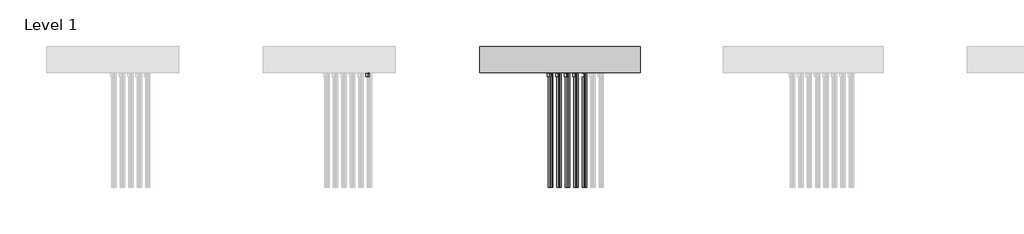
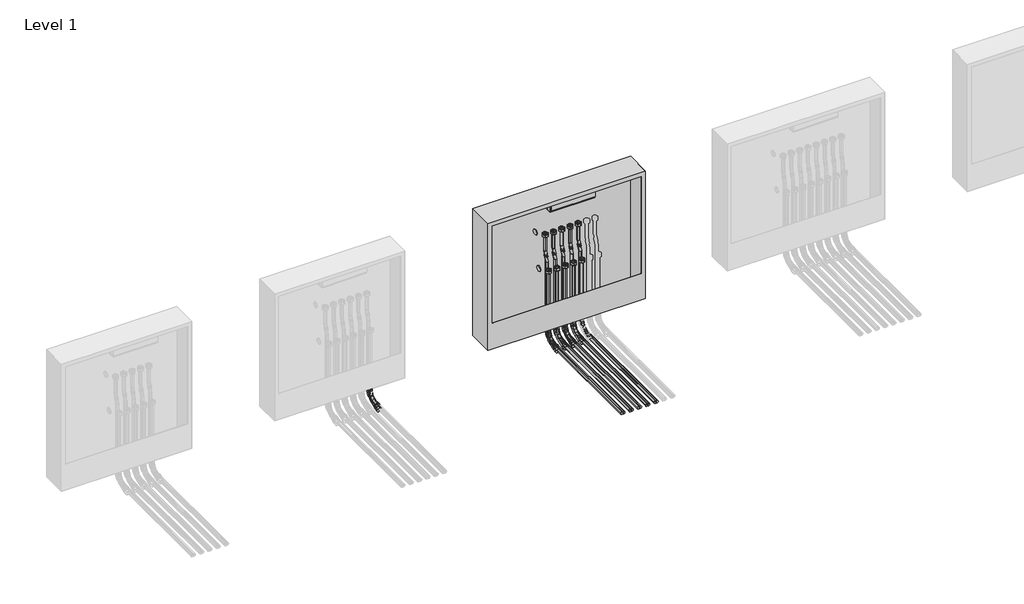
# One storey, part 5 of 15: 41 pipe fittings, 32 pipe segments, 1 proxy, 1 valve.
"""IFC4 building model written with IfcOpenShell, lengths in millimetres."""

from ifc_helpers import new_model, si_unit, point, frame, frame_2d, origin, place, context, project, spatial, circle_curve, trimmed, segment, composite_curve, outline, extrude, transform, mapped, element, save
from components import mechanical_equipment_387b3563, pipe_fitting_b05a7e06, pipe_fitting_27357a6d, pipe_fitting_3e503640, pipe_fitting_daada113, valve_ecdb27b7

model = new_model("IFC4")

# Units and contexts
model_context = context("Model", 3, world=origin())
ifc_project = project(units=[si_unit("LENGTHUNIT", "METRE", prefix="MILLI")], contexts=[model_context])

# Site, building, storey
site = spatial("IfcSite", under=ifc_project)
building = spatial("IfcBuilding", under=site)
storey = spatial("IfcBuildingStorey", under=building, Name="Level 1", Elevation=0.0)

# Proxy
placement = place(None, origin())
mechanical_equipment_shape = mechanical_equipment_387b3563(model_context)
element("IfcBuildingElementProxy", 1, Name="USYSTEMS_Контроллер UH-6 230В1 : Контроллер UH-6 230В 2", ObjectType="USYSTEMS_Контроллер UH-6 230В1 : Контроллер UH-6 230В 2", at=placement, inside=storey, context=model_context, shape_type="MappedRepresentation", body=[
    mapped(mechanical_equipment_shape, transform((8820.5319067, 3891.6676106, 729.375), x_axis=(1.0, 0.0, 0.0), y_axis=(0.0, 1.0, 0.0), z_axis=(0.0, 0.0, 1.0))),
])

# Pipe fittings
pipe_fitting_shape = pipe_fitting_b05a7e06(model_context)
element("IfcPipeFitting", 2, ObjectType="USYSTEMS_УгловойФиксатор_Multi : Угловой фиксатор", at=placement, inside=storey, context=model_context, shape_type="MappedRepresentation", body=[
    mapped(pipe_fitting_shape, transform((7592.2335352, 3819.7722258, -114.3211479), x_axis=(0.0, 0.0, -1.0), y_axis=(0.0, -1.0, 0.0), z_axis=(-1.0, 0.0, 0.0))),
])
element("IfcPipeFitting", 3, ObjectType="USYSTEMS_УгловойФиксатор_Multi : Угловой фиксатор", at=placement, inside=storey, context=model_context, shape_type="MappedRepresentation", body=[
    mapped(pipe_fitting_shape, transform((7602.3192916, 3855.7725479, -114.3211479), x_axis=(0.0, 0.0, -1.0), y_axis=(0.0, -1.0, 0.0), z_axis=(-1.0, 0.0, 0.0))),
])
element("IfcPipeFitting", 4, ObjectType="USYSTEMS_УгловойФиксатор_Multi : Угловой фиксатор", at=placement, inside=storey, context=model_context, shape_type="MappedRepresentation", body=[
    mapped(pipe_fitting_shape, transform((8667.1374436, 3819.7301106, -114.3211479), x_axis=(0.0, 0.0, -1.0), y_axis=(0.0, -1.0, 0.0), z_axis=(-1.0, 0.0, 0.0))),
])
element("IfcPipeFitting", 5, ObjectType="USYSTEMS_УгловойФиксатор_Multi : Угловой фиксатор", at=placement, inside=storey, context=model_context, shape_type="MappedRepresentation", body=[
    mapped(pipe_fitting_shape, transform((8717.1374436, 3819.7301106, -114.3211479), x_axis=(0.0, 0.0, -1.0), y_axis=(0.0, -1.0, 0.0), z_axis=(-1.0, 0.0, 0.0))),
])
element("IfcPipeFitting", 6, ObjectType="USYSTEMS_УгловойФиксатор_Multi : Угловой фиксатор", at=placement, inside=storey, context=model_context, shape_type="MappedRepresentation", body=[
    mapped(pipe_fitting_shape, transform((8677.2232, 3855.7301106, -114.3211479), x_axis=(0.0, 0.0, -1.0), y_axis=(0.0, -1.0, 0.0), z_axis=(-1.0, 0.0, 0.0))),
])
element("IfcPipeFitting", 7, ObjectType="USYSTEMS_УгловойФиксатор_Multi : Угловой фиксатор", at=placement, inside=storey, context=model_context, shape_type="MappedRepresentation", body=[
    mapped(pipe_fitting_shape, transform((8727.2232, 3855.7301106, -114.3211479), x_axis=(0.0, 0.0, -1.0), y_axis=(0.0, -1.0, 0.0), z_axis=(-1.0, 0.0, 0.0))),
])
element("IfcPipeFitting", 8, ObjectType="USYSTEMS_УгловойФиксатор_Multi : Угловой фиксатор", at=placement, inside=storey, context=model_context, shape_type="MappedRepresentation", body=[
    mapped(pipe_fitting_shape, transform((8767.1374436, 3819.7301106, -114.3211479), x_axis=(0.0, 0.0, -1.0), y_axis=(0.0, -1.0, 0.0), z_axis=(-1.0, 0.0, 0.0))),
])
element("IfcPipeFitting", 9, ObjectType="USYSTEMS_УгловойФиксатор_Multi : Угловой фиксатор", at=placement, inside=storey, context=model_context, shape_type="MappedRepresentation", body=[
    mapped(pipe_fitting_shape, transform((8777.2232, 3855.7301106, -114.3211479), x_axis=(0.0, 0.0, -1.0), y_axis=(0.0, -1.0, 0.0), z_axis=(-1.0, 0.0, 0.0))),
])
element("IfcPipeFitting", 10, ObjectType="USYSTEMS_УгловойФиксатор_Multi : Угловой фиксатор", at=placement, inside=storey, context=model_context, shape_type="MappedRepresentation", body=[
    mapped(pipe_fitting_shape, transform((8817.1374436, 3819.7301106, -114.3211479), x_axis=(0.0, 0.0, -1.0), y_axis=(0.0, -1.0, 0.0), z_axis=(-1.0, 0.0, 0.0))),
])
element("IfcPipeFitting", 11, ObjectType="USYSTEMS_УгловойФиксатор_Multi : Угловой фиксатор", at=placement, inside=storey, context=model_context, shape_type="MappedRepresentation", body=[
    mapped(pipe_fitting_shape, transform((8827.2232, 3855.7304327, -114.3211479), x_axis=(0.0, 0.0, -1.0), y_axis=(0.0, -1.0, 0.0), z_axis=(-1.0, 0.0, 0.0))),
])
pipe_fitting_2_shape = pipe_fitting_27357a6d(model_context)
element("IfcPipeFitting", 12, ObjectType="USYSTEMS_Штуцер с внутренней резьбой_FlexX_PEX : 16x2,0 x 3/4\" ВР Евроконус", at=placement, inside=storey, context=model_context, shape_type="MappedRepresentation", body=[
    mapped(pipe_fitting_2_shape, transform((8717.1374436, 3855.7305707, 538.3084133), x_axis=(0.0, 0.0, 1.0), y_axis=(0.0, 1.0, 0.0), z_axis=(-1.0, 0.0, 0.0))),
])
element("IfcPipeFitting", 13, ObjectType="USYSTEMS_Штуцер с внутренней резьбой_FlexX_PEX : 16x2,0 x 3/4\" ВР Евроконус", at=placement, inside=storey, context=model_context, shape_type="MappedRepresentation", body=[
    mapped(pipe_fitting_2_shape, transform((8717.1374436, 3819.7305707, 328.3084133), x_axis=(0.0, 0.0, 1.0), y_axis=(0.0, 1.0, 0.0), z_axis=(-1.0, 0.0, 0.0))),
])
element("IfcPipeFitting", 14, ObjectType="USYSTEMS_Штуцер с внутренней резьбой_FlexX_PEX : 16x2,0 x 3/4\" ВР Евроконус", at=placement, inside=storey, context=model_context, shape_type="MappedRepresentation", body=[
    mapped(pipe_fitting_2_shape, transform((8667.1374436, 3819.7305707, 328.3084133), x_axis=(0.0, 0.0, 1.0), y_axis=(0.0, 1.0, 0.0), z_axis=(-1.0, 0.0, 0.0))),
])
element("IfcPipeFitting", 15, ObjectType="USYSTEMS_Штуцер с внутренней резьбой_FlexX_PEX : 16x2,0 x 3/4\" ВР Евроконус", at=placement, inside=storey, context=model_context, shape_type="MappedRepresentation", body=[
    mapped(pipe_fitting_2_shape, transform((8667.1374436, 3855.7305707, 538.3084133), x_axis=(0.0, 0.0, 1.0), y_axis=(0.0, 1.0, 0.0), z_axis=(-1.0, 0.0, 0.0))),
])
element("IfcPipeFitting", 16, ObjectType="USYSTEMS_Штуцер с внутренней резьбой_FlexX_PEX : 16x2,0 x 3/4\" ВР Евроконус", at=placement, inside=storey, context=model_context, shape_type="MappedRepresentation", body=[
    mapped(pipe_fitting_2_shape, transform((8767.1374436, 3819.7305707, 328.3084133), x_axis=(0.0, 0.0, 1.0), y_axis=(0.0, 1.0, 0.0), z_axis=(-1.0, 0.0, 0.0))),
])
element("IfcPipeFitting", 17, ObjectType="USYSTEMS_Штуцер с внутренней резьбой_FlexX_PEX : 16x2,0 x 3/4\" ВР Евроконус", at=placement, inside=storey, context=model_context, shape_type="MappedRepresentation", body=[
    mapped(pipe_fitting_2_shape, transform((8767.1374436, 3855.7305707, 538.3084133), x_axis=(0.0, 0.0, 1.0), y_axis=(0.0, 1.0, 0.0), z_axis=(-1.0, 0.0, 0.0))),
])
element("IfcPipeFitting", 18, ObjectType="USYSTEMS_Штуцер с внутренней резьбой_FlexX_PEX : 16x2,0 x 3/4\" ВР Евроконус", at=placement, inside=storey, context=model_context, shape_type="MappedRepresentation", body=[
    mapped(pipe_fitting_2_shape, transform((8817.1374436, 3819.7305707, 328.3084133), x_axis=(0.0, 0.0, 1.0), y_axis=(0.0, 1.0, 0.0), z_axis=(-1.0, 0.0, 0.0))),
])
element("IfcPipeFitting", 19, ObjectType="USYSTEMS_Штуцер с внутренней резьбой_FlexX_PEX : 16x2,0 x 3/4\" ВР Евроконус", at=placement, inside=storey, context=model_context, shape_type="MappedRepresentation", body=[
    mapped(pipe_fitting_2_shape, transform((8817.1374436, 3855.7305707, 538.3084133), x_axis=(0.0, 0.0, 1.0), y_axis=(0.0, 1.0, 0.0), z_axis=(-1.0, 0.0, 0.0))),
])
element("IfcPipeFitting", 20, ObjectType="USYSTEMS_Штуцер с внутренней резьбой_FlexX_PEX : 16x2,0 x 3/4\" ВР Евроконус", at=placement, inside=storey, context=model_context, shape_type="MappedRepresentation", body=[
    mapped(pipe_fitting_2_shape, transform((8867.1374436, 3819.7305707, 328.3084133), x_axis=(0.0, 0.0, 1.0), y_axis=(0.0, 1.0, 0.0), z_axis=(-1.0, 0.0, 0.0))),
])
element("IfcPipeFitting", 21, ObjectType="USYSTEMS_Штуцер с внутренней резьбой_FlexX_PEX : 16x2,0 x 3/4\" ВР Евроконус", at=placement, inside=storey, context=model_context, shape_type="MappedRepresentation", body=[
    mapped(pipe_fitting_2_shape, transform((8867.1374436, 3855.7305707, 538.3084133), x_axis=(0.0, 0.0, 1.0), y_axis=(0.0, 1.0, 0.0), z_axis=(-1.0, 0.0, 0.0))),
])
pipe_fitting_3_shape = pipe_fitting_3e503640(model_context)
element("IfcPipeFitting", 22, ObjectType="USYSTEMS_Гнутая труба_Radi Pipe : PN 6 в бухтах_С фиксатором", at=placement, inside=storey, context=model_context, shape_type="MappedRepresentation", body=[
    mapped(pipe_fitting_3_shape, transform((7602.3192916, 3855.7725479, -114.3211479), x_axis=(0.0, 0.0, -1.0), y_axis=(0.0, -1.0, 0.0), z_axis=(-1.0, 0.0, 0.0))),
])
pipe_fitting_4_shape = pipe_fitting_daada113(model_context)
element("IfcPipeFitting", 23, ObjectType="USYSTEMS_Гнутая труба_Radi Pipe : PN 6 в бухтах", at=placement, inside=storey, context=model_context, shape_type="MappedRepresentation", body=[
    mapped(pipe_fitting_4_shape, transform((8667.1374436, 3855.7298107, 414.5388211), x_axis=(0.0, 0.0, -1.0), y_axis=(1.0, 0.0, 0.0), z_axis=(0.0, -1.0, 0.0))),
])
element("IfcPipeFitting", 24, ObjectType="USYSTEMS_Гнутая труба_Radi Pipe : PN 6 в бухтах", at=placement, inside=storey, context=model_context, shape_type="MappedRepresentation", body=[
    mapped(pipe_fitting_4_shape, transform((8677.2232, 3855.7301106, 388.2645272), x_axis=(0.3583679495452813, 0.0, -0.9335804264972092), y_axis=(-0.9335804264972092, 0.0, -0.3583679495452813), z_axis=(0.0, 1.0, 0.0))),
])
element("IfcPipeFitting", 25, ObjectType="USYSTEMS_Гнутая труба_Radi Pipe : PN 6 в бухтах", at=placement, inside=storey, context=model_context, shape_type="MappedRepresentation", body=[
    mapped(pipe_fitting_4_shape, transform((8717.1374436, 3855.7298109, 414.5122189), x_axis=(0.0, 0.0, -1.0), y_axis=(1.0, 0.0, 0.0), z_axis=(0.0, -1.0, 0.0))),
])
element("IfcPipeFitting", 26, ObjectType="USYSTEMS_Гнутая труба_Radi Pipe : PN 6 в бухтах", at=placement, inside=storey, context=model_context, shape_type="MappedRepresentation", body=[
    mapped(pipe_fitting_4_shape, transform((8727.2232, 3855.7301106, 388.237925), x_axis=(0.3583679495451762, 0.0, -0.9335804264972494), y_axis=(-0.9335804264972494, 0.0, -0.3583679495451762), z_axis=(0.0, 1.0, 0.0))),
])
element("IfcPipeFitting", 27, ObjectType="USYSTEMS_Гнутая труба_Radi Pipe : PN 6 в бухтах", at=placement, inside=storey, context=model_context, shape_type="MappedRepresentation", body=[
    mapped(pipe_fitting_4_shape, transform((8767.1374436, 3855.7298107, 414.5388211), x_axis=(0.0, 0.0, -1.0), y_axis=(1.0, 0.0, 0.0), z_axis=(0.0, -1.0, 0.0))),
])
element("IfcPipeFitting", 28, ObjectType="USYSTEMS_Гнутая труба_Radi Pipe : PN 6 в бухтах", at=placement, inside=storey, context=model_context, shape_type="MappedRepresentation", body=[
    mapped(pipe_fitting_4_shape, transform((8777.2232, 3855.7301106, 388.2645272), x_axis=(0.3583679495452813, 0.0, -0.9335804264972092), y_axis=(-0.9335804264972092, 0.0, -0.3583679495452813), z_axis=(0.0, 1.0, 0.0))),
])
element("IfcPipeFitting", 29, ObjectType="USYSTEMS_Гнутая труба_Radi Pipe : PN 6 в бухтах", at=placement, inside=storey, context=model_context, shape_type="MappedRepresentation", body=[
    mapped(pipe_fitting_4_shape, transform((8817.1374436, 3855.7303427, 414.5388211), x_axis=(0.0, 0.0, -1.0), y_axis=(1.0, 0.0, 0.0), z_axis=(0.0, -1.0, 0.0))),
])
element("IfcPipeFitting", 30, ObjectType="USYSTEMS_Гнутая труба_Radi Pipe : PN 6 в бухтах", at=placement, inside=storey, context=model_context, shape_type="MappedRepresentation", body=[
    mapped(pipe_fitting_4_shape, transform((8827.2232, 3855.7304327, 388.2645272), x_axis=(0.3583679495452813, 0.0, -0.9335804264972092), y_axis=(-0.9335804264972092, 0.0, -0.3583679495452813), z_axis=(0.0, 1.0, 0.0))),
])
element("IfcPipeFitting", 31, ObjectType="USYSTEMS_Гнутая труба_Radi Pipe : PN 6 в бухтах", at=placement, inside=storey, context=model_context, shape_type="MappedRepresentation", body=[
    mapped(pipe_fitting_4_shape, transform((8867.1374436, 3855.7298107, 414.5388211), x_axis=(0.0, 0.0, -1.0), y_axis=(1.0, 0.0, 0.0), z_axis=(0.0, -1.0, 0.0))),
])
element("IfcPipeFitting", 32, ObjectType="USYSTEMS_Гнутая труба_Radi Pipe : PN 6 в бухтах", at=placement, inside=storey, context=model_context, shape_type="MappedRepresentation", body=[
    mapped(pipe_fitting_4_shape, transform((8877.2232, 3855.7301106, 388.2645272), x_axis=(0.3583679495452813, 0.0, -0.9335804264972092), y_axis=(-0.9335804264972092, 0.0, -0.3583679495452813), z_axis=(0.0, 1.0, 0.0))),
])
element("IfcPipeFitting", 33, ObjectType="USYSTEMS_Гнутая труба_Radi Pipe : PN 6 в бухтах_С фиксатором", at=placement, inside=storey, context=model_context, shape_type="MappedRepresentation", body=[
    mapped(pipe_fitting_3_shape, transform((8667.1374436, 3819.7301106, -114.3211479), x_axis=(0.0, 0.0, -1.0), y_axis=(0.0, -1.0, 0.0), z_axis=(-1.0, 0.0, 0.0))),
])
element("IfcPipeFitting", 34, ObjectType="USYSTEMS_Гнутая труба_Radi Pipe : PN 6 в бухтах_С фиксатором", at=placement, inside=storey, context=model_context, shape_type="MappedRepresentation", body=[
    mapped(pipe_fitting_3_shape, transform((8717.1374436, 3819.7301106, -114.3211479), x_axis=(0.0, 0.0, -1.0), y_axis=(0.0, -1.0, 0.0), z_axis=(-1.0, 0.0, 0.0))),
])
element("IfcPipeFitting", 35, ObjectType="USYSTEMS_Гнутая труба_Radi Pipe : PN 6 в бухтах_С фиксатором", at=placement, inside=storey, context=model_context, shape_type="MappedRepresentation", body=[
    mapped(pipe_fitting_3_shape, transform((8677.2232, 3855.7301106, -114.3211479), x_axis=(0.0, 0.0, -1.0), y_axis=(0.0, -1.0, 0.0), z_axis=(-1.0, 0.0, 0.0))),
])
element("IfcPipeFitting", 36, ObjectType="USYSTEMS_Гнутая труба_Radi Pipe : PN 6 в бухтах_С фиксатором", at=placement, inside=storey, context=model_context, shape_type="MappedRepresentation", body=[
    mapped(pipe_fitting_3_shape, transform((8727.2232, 3855.7301106, -114.3211479), x_axis=(0.0, 0.0, -1.0), y_axis=(0.0, -1.0, 0.0), z_axis=(-1.0, 0.0, 0.0))),
])
element("IfcPipeFitting", 37, ObjectType="USYSTEMS_Гнутая труба_Radi Pipe : PN 6 в бухтах_С фиксатором", at=placement, inside=storey, context=model_context, shape_type="MappedRepresentation", body=[
    mapped(pipe_fitting_3_shape, transform((8767.1374436, 3819.7301106, -114.3211479), x_axis=(0.0, 0.0, -1.0), y_axis=(0.0, -1.0, 0.0), z_axis=(-1.0, 0.0, 0.0))),
])
element("IfcPipeFitting", 38, ObjectType="USYSTEMS_Гнутая труба_Radi Pipe : PN 6 в бухтах_С фиксатором", at=placement, inside=storey, context=model_context, shape_type="MappedRepresentation", body=[
    mapped(pipe_fitting_3_shape, transform((8777.2232, 3855.7301106, -114.3211479), x_axis=(0.0, 0.0, -1.0), y_axis=(0.0, -1.0, 0.0), z_axis=(-1.0, 0.0, 0.0))),
])
element("IfcPipeFitting", 39, ObjectType="USYSTEMS_Гнутая труба_Radi Pipe : PN 6 в бухтах_С фиксатором", at=placement, inside=storey, context=model_context, shape_type="MappedRepresentation", body=[
    mapped(pipe_fitting_3_shape, transform((8817.1374436, 3819.7301106, -114.3211479), x_axis=(0.0, 0.0, -1.0), y_axis=(0.0, -1.0, 0.0), z_axis=(-1.0, 0.0, 0.0))),
])
element("IfcPipeFitting", 40, ObjectType="USYSTEMS_Гнутая труба_Radi Pipe : PN 6 в бухтах_С фиксатором", at=placement, inside=storey, context=model_context, shape_type="MappedRepresentation", body=[
    mapped(pipe_fitting_3_shape, transform((8827.2232, 3855.7304327, -114.3211479), x_axis=(0.0, 0.0, -1.0), y_axis=(0.0, -1.0, 0.0), z_axis=(-1.0, 0.0, 0.0))),
])
element("IfcPipeFitting", 41, ObjectType="USYSTEMS_Гнутая труба_Radi Pipe : PN 6 в бухтах_С фиксатором", at=placement, inside=storey, context=model_context, shape_type="MappedRepresentation", body=[
    mapped(pipe_fitting_3_shape, transform((8867.1374436, 3819.7304327, -114.3211479), x_axis=(0.0, 0.0, -1.0), y_axis=(0.0, -1.0, 0.0), z_axis=(-1.0, 0.0, 0.0))),
])
element("IfcPipeFitting", 42, ObjectType="USYSTEMS_Гнутая труба_Radi Pipe : PN 6 в бухтах_С фиксатором", at=placement, inside=storey, context=model_context, shape_type="MappedRepresentation", body=[
    mapped(pipe_fitting_3_shape, transform((8877.2232, 3855.7301106, -114.3211479), x_axis=(0.0, 0.0, -1.0), y_axis=(0.0, -1.0, 0.0), z_axis=(-1.0, 0.0, 0.0))),
])

# Pipe segments
element("IfcPipeSegment", 43, ObjectType="USYSTEMS труба Radi Pipe белая PN6", at=placement, inside=storey, context=model_context, shape_type="SweptSolid", body=[
    extrude(outline(composite_curve([segment(trimmed(circle_curve(frame_2d((0.0, -8.0)), 8.0), [point((-8.0, -8.0))], [point((0.0, 0.0))], False, "CARTESIAN"), True, "CONTINUOUS"), segment(trimmed(circle_curve(frame_2d((0.0, -8.0)), 8.0), [point((0.0, 0.0))], [point((8.0, -8.0))], False, "CARTESIAN"), True, "CONTINUOUS"), segment(trimmed(circle_curve(frame_2d((0.0, -8.0)), 8.0), [point((8.0, -8.0))], [point((0.0, -16.0))], False, "CARTESIAN"), True, "CONTINUOUS"), segment(trimmed(circle_curve(frame_2d((0.0, -8.0)), 8.0), [point((0.0, -16.0))], [point((-8.0, -8.0))], False, "CARTESIAN"), True, "CONTINUOUS")], self_intersect=False)), frame((8667.1374436, 3811.7301106, -43.321138), z_axis=(0.0, 1.241500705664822e-06, 0.9999999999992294), x_axis=(-1.0, 0.0, 0.0)), (0.0, 0.0, 1.0), 370.6295612),
])
element("IfcPipeSegment", 44, ObjectType="USYSTEMS труба Radi Pipe белая PN6", at=placement, inside=storey, context=model_context, shape_type="SweptSolid", body=[
    extrude(outline(composite_curve([segment(trimmed(circle_curve(frame_2d((0.0, -8.0)), 8.0), [point((-8.0, -8.0))], [point((0.0, 0.0))], False, "CARTESIAN"), True, "CONTINUOUS"), segment(trimmed(circle_curve(frame_2d((0.0, -8.0)), 8.0), [point((0.0, 0.0))], [point((8.0, -8.0))], False, "CARTESIAN"), True, "CONTINUOUS"), segment(trimmed(circle_curve(frame_2d((0.0, -8.0)), 8.0), [point((8.0, -8.0))], [point((0.0, -16.0))], False, "CARTESIAN"), True, "CONTINUOUS"), segment(trimmed(circle_curve(frame_2d((0.0, -8.0)), 8.0), [point((0.0, -16.0))], [point((-8.0, -8.0))], False, "CARTESIAN"), True, "CONTINUOUS")], self_intersect=False)), frame((8717.1374436, 3811.7301106, -43.321138), z_axis=(0.0, 1.241500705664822e-06, 0.9999999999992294), x_axis=(-1.0, 0.0, 0.0)), (0.0, 0.0, 1.0), 370.6295612),
])
element("IfcPipeSegment", 45, ObjectType="USYSTEMS труба Radi Pipe белая PN6", at=placement, inside=storey, context=model_context, shape_type="SweptSolid", body=[
    extrude(outline(composite_curve([segment(trimmed(circle_curve(frame_2d((0.0, -8.0)), 8.0), [point((-8.0, -8.0))], [point((0.0, 0.0))], False, "CARTESIAN"), True, "CONTINUOUS"), segment(trimmed(circle_curve(frame_2d((0.0, -8.0)), 8.0), [point((0.0, 0.0))], [point((8.0, -8.0))], False, "CARTESIAN"), True, "CONTINUOUS"), segment(trimmed(circle_curve(frame_2d((0.0, -8.0)), 8.0), [point((8.0, -8.0))], [point((0.0, -16.0))], False, "CARTESIAN"), True, "CONTINUOUS"), segment(trimmed(circle_curve(frame_2d((0.0, -8.0)), 8.0), [point((0.0, -16.0))], [point((-8.0, -8.0))], False, "CARTESIAN"), True, "CONTINUOUS")], self_intersect=False)), frame((8717.1374436, 3847.7298109, 438.235678), z_axis=(0.0, 7.669400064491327e-06, 0.9999999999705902), x_axis=(-1.0, 0.0, 0.0)), (0.0, 0.0, 1.0), 99.0727967),
])
element("IfcPipeSegment", 46, ObjectType="USYSTEMS труба Radi Pipe белая PN6", at=placement, inside=storey, context=model_context, shape_type="SweptSolid", body=[
    extrude(outline(composite_curve([segment(trimmed(circle_curve(frame_2d((0.0, -8.0)), 8.0), [point((-8.0, -8.0))], [point((0.0, 0.0))], False, "CARTESIAN"), True, "CONTINUOUS"), segment(trimmed(circle_curve(frame_2d((0.0, -8.0)), 8.0), [point((0.0, 0.0))], [point((8.0, -8.0))], False, "CARTESIAN"), True, "CONTINUOUS"), segment(trimmed(circle_curve(frame_2d((0.0, -8.0)), 8.0), [point((8.0, -8.0))], [point((0.0, -16.0))], False, "CARTESIAN"), True, "CONTINUOUS"), segment(trimmed(circle_curve(frame_2d((0.0, -8.0)), 8.0), [point((0.0, -16.0))], [point((-8.0, -8.0))], False, "CARTESIAN"), True, "CONTINUOUS")], self_intersect=False)), frame((8667.1374436, 3847.7298107, 438.2622802), z_axis=(0.0, 7.672802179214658e-06, 0.9999999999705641), x_axis=(-1.0, 0.0, 0.0)), (0.0, 0.0, 1.0), 99.0461944),
])
element("IfcPipeSegment", 47, ObjectType="USYSTEMS труба Radi Pipe белая PN6", at=placement, inside=storey, context=model_context, shape_type="SweptSolid", body=[
    extrude(outline(composite_curve([segment(trimmed(circle_curve(frame_2d((0.0, 8.0)), 8.0), [point((0.0003714, 16.0))], [point((8.0, 7.9996286))], False, "CARTESIAN"), True, "CONTINUOUS"), segment(trimmed(circle_curve(frame_2d((0.0, 8.0)), 8.0), [point((8.0, 7.9996286))], [point((-0.0003715, 0.0))], False, "CARTESIAN"), True, "CONTINUOUS"), segment(trimmed(circle_curve(frame_2d((0.0, 8.0)), 8.0), [point((-0.0003715, 0.0))], [point((-8.0, 8.0003714))], False, "CARTESIAN"), True, "CONTINUOUS"), segment(trimmed(circle_curve(frame_2d((0.0, 8.0)), 8.0), [point((-8.0, 8.0003714))], [point((0.0003714, 16.0))], False, "CARTESIAN"), True, "CONTINUOUS")], self_intersect=False)), frame((8675.639149, 3847.7298107, 392.3912544), z_axis=(-0.35836794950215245, 1.5532384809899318e-05, 0.9335804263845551), x_axis=(0.9335804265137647, 5.9623239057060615e-06, 0.3583679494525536)), (0.0, 0.0, 1.0), 19.3032171),
])
element("IfcPipeSegment", 48, ObjectType="USYSTEMS труба Radi Pipe белая PN6", at=placement, inside=storey, context=model_context, shape_type="SweptSolid", body=[
    extrude(outline(composite_curve([segment(trimmed(circle_curve(frame_2d((8677.2232, 3855.7301106)), 8.0), [point((8685.2232, 3855.7301106))], [point((8677.2232, 3847.7301106))], False, "CARTESIAN"), True, "CONTINUOUS"), segment(trimmed(circle_curve(frame_2d((8677.2232, 3855.7301106)), 8.0), [point((8677.2232, 3847.7301106))], [point((8669.2232, 3855.7301106))], False, "CARTESIAN"), True, "CONTINUOUS"), segment(trimmed(circle_curve(frame_2d((8677.2232, 3855.7301106)), 8.0), [point((8669.2232, 3855.7301106))], [point((8677.2232, 3863.7301106))], False, "CARTESIAN"), True, "CONTINUOUS"), segment(trimmed(circle_curve(frame_2d((8677.2232, 3855.7301106)), 8.0), [point((8677.2232, 3863.7301106))], [point((8685.2232, 3855.7301106))], False, "CARTESIAN"), True, "CONTINUOUS")], self_intersect=False)), frame((0.0, 0.0, -43.3211479), z_axis=(0.0, 0.0, 1.0), x_axis=(1.0, 0.0, 0.0)), (0.0, 0.0, 1.0), 407.8622774),
])
element("IfcPipeSegment", 49, ObjectType="USYSTEMS труба Radi Pipe белая PN6", at=placement, inside=storey, context=model_context, shape_type="SweptSolid", body=[
    extrude(outline(composite_curve([segment(trimmed(circle_curve(frame_2d((0.0, 8.0)), 8.0), [point((0.0003713, 16.0))], [point((8.0, 7.9996287))], False, "CARTESIAN"), True, "CONTINUOUS"), segment(trimmed(circle_curve(frame_2d((0.0, 8.0)), 8.0), [point((8.0, 7.9996287))], [point((-0.0003712, 0.0))], False, "CARTESIAN"), True, "CONTINUOUS"), segment(trimmed(circle_curve(frame_2d((0.0, 8.0)), 8.0), [point((-0.0003712, 0.0))], [point((-8.0, 8.0003712))], False, "CARTESIAN"), True, "CONTINUOUS"), segment(trimmed(circle_curve(frame_2d((0.0, 8.0)), 8.0), [point((-8.0, 8.0003712))], [point((0.0003713, 16.0))], False, "CARTESIAN"), True, "CONTINUOUS")], self_intersect=False)), frame((8725.639149, 3847.7298109, 392.3646521), z_axis=(-0.35836794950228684, 1.5525497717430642e-05, 0.9335804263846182), x_axis=(0.9335804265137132, 5.959680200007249e-06, 0.3583679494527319)), (0.0, 0.0, 1.0), 19.3032171),
])
element("IfcPipeSegment", 50, ObjectType="USYSTEMS труба Radi Pipe белая PN6", at=placement, inside=storey, context=model_context, shape_type="SweptSolid", body=[
    extrude(outline(composite_curve([segment(trimmed(circle_curve(frame_2d((8727.2232, 3855.7301106)), 8.0), [point((8735.2232, 3855.7301106))], [point((8727.2232, 3847.7301106))], False, "CARTESIAN"), True, "CONTINUOUS"), segment(trimmed(circle_curve(frame_2d((8727.2232, 3855.7301106)), 8.0), [point((8727.2232, 3847.7301106))], [point((8719.2232, 3855.7301106))], False, "CARTESIAN"), True, "CONTINUOUS"), segment(trimmed(circle_curve(frame_2d((8727.2232, 3855.7301106)), 8.0), [point((8719.2232, 3855.7301106))], [point((8727.2232, 3863.7301106))], False, "CARTESIAN"), True, "CONTINUOUS"), segment(trimmed(circle_curve(frame_2d((8727.2232, 3855.7301106)), 8.0), [point((8727.2232, 3863.7301106))], [point((8735.2232, 3855.7301106))], False, "CARTESIAN"), True, "CONTINUOUS")], self_intersect=False)), frame((0.0, 0.0, -43.3211479), z_axis=(0.0, 0.0, 1.0), x_axis=(1.0, 0.0, 0.0)), (0.0, 0.0, 1.0), 407.8356751),
])
element("IfcPipeSegment", 51, ObjectType="USYSTEMS труба Radi Pipe белая PN6", at=placement, inside=storey, context=model_context, shape_type="SweptSolid", body=[
    extrude(outline(composite_curve([segment(trimmed(circle_curve(frame_2d((-114.3211479, 8667.1374436)), 8.0), [point((-114.3211479, 8659.1374436))], [point((-122.3211479, 8667.1374436))], False, "CARTESIAN"), True, "CONTINUOUS"), segment(trimmed(circle_curve(frame_2d((-114.3211479, 8667.1374436)), 8.0), [point((-122.3211479, 8667.1374436))], [point((-114.3211479, 8675.1374436))], False, "CARTESIAN"), True, "CONTINUOUS"), segment(trimmed(circle_curve(frame_2d((-114.3211479, 8667.1374436)), 8.0), [point((-114.3211479, 8675.1374436))], [point((-106.3211479, 8667.1374436))], False, "CARTESIAN"), True, "CONTINUOUS"), segment(trimmed(circle_curve(frame_2d((-114.3211479, 8667.1374436)), 8.0), [point((-106.3211479, 8667.1374436))], [point((-114.3211479, 8659.1374436))], False, "CARTESIAN"), True, "CONTINUOUS")], self_intersect=False)), frame((0.0, 3054.7207207, 0.0), z_axis=(0.0, 1.0, 0.0), x_axis=(0.0, 0.0, 1.0)), (0.0, 0.0, 1.0), 694.0093898),
])
element("IfcPipeSegment", 52, ObjectType="USYSTEMS труба Radi Pipe белая PN6", at=placement, inside=storey, context=model_context, shape_type="SweptSolid", body=[
    extrude(outline(composite_curve([segment(trimmed(circle_curve(frame_2d((-114.3211479, 8717.1374436)), 8.0), [point((-114.3211479, 8709.1374436))], [point((-122.3211479, 8717.1374436))], False, "CARTESIAN"), True, "CONTINUOUS"), segment(trimmed(circle_curve(frame_2d((-114.3211479, 8717.1374436)), 8.0), [point((-122.3211479, 8717.1374436))], [point((-114.3211479, 8725.1374436))], False, "CARTESIAN"), True, "CONTINUOUS"), segment(trimmed(circle_curve(frame_2d((-114.3211479, 8717.1374436)), 8.0), [point((-114.3211479, 8725.1374436))], [point((-106.3211479, 8717.1374436))], False, "CARTESIAN"), True, "CONTINUOUS"), segment(trimmed(circle_curve(frame_2d((-114.3211479, 8717.1374436)), 8.0), [point((-106.3211479, 8717.1374436))], [point((-114.3211479, 8709.1374436))], False, "CARTESIAN"), True, "CONTINUOUS")], self_intersect=False)), frame((0.0, 3054.7207207, 0.0), z_axis=(0.0, 1.0, 0.0), x_axis=(0.0, 0.0, 1.0)), (0.0, 0.0, 1.0), 694.0093898),
])
element("IfcPipeSegment", 53, ObjectType="USYSTEMS труба Radi Pipe белая PN6", at=placement, inside=storey, context=model_context, shape_type="SweptSolid", body=[
    extrude(outline(composite_curve([segment(trimmed(circle_curve(frame_2d((-114.3211479, 8677.2232)), 8.0), [point((-114.3211479, 8669.2232))], [point((-122.3211479, 8677.2232))], False, "CARTESIAN"), True, "CONTINUOUS"), segment(trimmed(circle_curve(frame_2d((-114.3211479, 8677.2232)), 8.0), [point((-122.3211479, 8677.2232))], [point((-114.3211479, 8685.2232))], False, "CARTESIAN"), True, "CONTINUOUS"), segment(trimmed(circle_curve(frame_2d((-114.3211479, 8677.2232)), 8.0), [point((-114.3211479, 8685.2232))], [point((-106.3211479, 8677.2232))], False, "CARTESIAN"), True, "CONTINUOUS"), segment(trimmed(circle_curve(frame_2d((-114.3211479, 8677.2232)), 8.0), [point((-106.3211479, 8677.2232))], [point((-114.3211479, 8669.2232))], False, "CARTESIAN"), True, "CONTINUOUS")], self_intersect=False)), frame((0.0, 3054.7207207, 0.0), z_axis=(0.0, 1.0, 0.0), x_axis=(0.0, 0.0, 1.0)), (0.0, 0.0, 1.0), 730.0093898),
])
element("IfcPipeSegment", 54, ObjectType="USYSTEMS труба Radi Pipe белая PN6", at=placement, inside=storey, context=model_context, shape_type="SweptSolid", body=[
    extrude(outline(composite_curve([segment(trimmed(circle_curve(frame_2d((-114.3211479, 8727.2232)), 8.0), [point((-114.3211479, 8719.2232))], [point((-122.3211479, 8727.2232))], False, "CARTESIAN"), True, "CONTINUOUS"), segment(trimmed(circle_curve(frame_2d((-114.3211479, 8727.2232)), 8.0), [point((-122.3211479, 8727.2232))], [point((-114.3211479, 8735.2232))], False, "CARTESIAN"), True, "CONTINUOUS"), segment(trimmed(circle_curve(frame_2d((-114.3211479, 8727.2232)), 8.0), [point((-114.3211479, 8735.2232))], [point((-106.3211479, 8727.2232))], False, "CARTESIAN"), True, "CONTINUOUS"), segment(trimmed(circle_curve(frame_2d((-114.3211479, 8727.2232)), 8.0), [point((-106.3211479, 8727.2232))], [point((-114.3211479, 8719.2232))], False, "CARTESIAN"), True, "CONTINUOUS")], self_intersect=False)), frame((0.0, 3054.7207207, 0.0), z_axis=(0.0, 1.0, 0.0), x_axis=(0.0, 0.0, 1.0)), (0.0, 0.0, 1.0), 730.0093898),
])
element("IfcPipeSegment", 55, ObjectType="USYSTEMS труба Radi Pipe белая PN6", at=placement, inside=storey, context=model_context, shape_type="SweptSolid", body=[
    extrude(outline(composite_curve([segment(trimmed(circle_curve(frame_2d((0.0, -8.0)), 8.0), [point((-8.0, -8.0))], [point((0.0, 0.0))], False, "CARTESIAN"), True, "CONTINUOUS"), segment(trimmed(circle_curve(frame_2d((0.0, -8.0)), 8.0), [point((0.0, 0.0))], [point((8.0, -8.0))], False, "CARTESIAN"), True, "CONTINUOUS"), segment(trimmed(circle_curve(frame_2d((0.0, -8.0)), 8.0), [point((8.0, -8.0))], [point((0.0, -16.0))], False, "CARTESIAN"), True, "CONTINUOUS"), segment(trimmed(circle_curve(frame_2d((0.0, -8.0)), 8.0), [point((0.0, -16.0))], [point((-8.0, -8.0))], False, "CARTESIAN"), True, "CONTINUOUS")], self_intersect=False)), frame((8767.1374436, 3811.7301106, -43.321138), z_axis=(0.0, 1.2415007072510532e-06, 0.9999999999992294), x_axis=(-1.0, 0.0, 0.0)), (0.0, 0.0, 1.0), 370.6295612),
])
element("IfcPipeSegment", 56, ObjectType="USYSTEMS труба Radi Pipe белая PN6", at=placement, inside=storey, context=model_context, shape_type="SweptSolid", body=[
    extrude(outline(composite_curve([segment(trimmed(circle_curve(frame_2d((0.0, -8.0)), 8.0), [point((-8.0, -8.0))], [point((0.0, 0.0))], False, "CARTESIAN"), True, "CONTINUOUS"), segment(trimmed(circle_curve(frame_2d((0.0, -8.0)), 8.0), [point((0.0, 0.0))], [point((8.0, -8.0))], False, "CARTESIAN"), True, "CONTINUOUS"), segment(trimmed(circle_curve(frame_2d((0.0, -8.0)), 8.0), [point((8.0, -8.0))], [point((0.0, -16.0))], False, "CARTESIAN"), True, "CONTINUOUS"), segment(trimmed(circle_curve(frame_2d((0.0, -8.0)), 8.0), [point((0.0, -16.0))], [point((-8.0, -8.0))], False, "CARTESIAN"), True, "CONTINUOUS")], self_intersect=False)), frame((8767.1374436, 3847.7298107, 438.2622802), z_axis=(0.0, 7.672802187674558e-06, 0.9999999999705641), x_axis=(-1.0, 0.0, 0.0)), (0.0, 0.0, 1.0), 99.0461944),
])
element("IfcPipeSegment", 57, ObjectType="USYSTEMS труба Radi Pipe белая PN6", at=placement, inside=storey, context=model_context, shape_type="SweptSolid", body=[
    extrude(outline(composite_curve([segment(trimmed(circle_curve(frame_2d((0.0, 8.0)), 8.0), [point((0.0003714, 16.0))], [point((8.0, 7.9996286))], False, "CARTESIAN"), True, "CONTINUOUS"), segment(trimmed(circle_curve(frame_2d((0.0, 8.0)), 8.0), [point((8.0, 7.9996286))], [point((-0.0003715, 0.0))], False, "CARTESIAN"), True, "CONTINUOUS"), segment(trimmed(circle_curve(frame_2d((0.0, 8.0)), 8.0), [point((-0.0003715, 0.0))], [point((-8.0, 8.0003714))], False, "CARTESIAN"), True, "CONTINUOUS"), segment(trimmed(circle_curve(frame_2d((0.0, 8.0)), 8.0), [point((-8.0, 8.0003714))], [point((0.0003714, 16.0))], False, "CARTESIAN"), True, "CONTINUOUS")], self_intersect=False)), frame((8775.639149, 3847.7298107, 392.3912544), z_axis=(-0.3583679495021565, 1.5532384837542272e-05, 0.9335804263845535), x_axis=(0.9335804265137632, 5.96232391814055e-06, 0.3583679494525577)), (0.0, 0.0, 1.0), 19.3032171),
])
element("IfcPipeSegment", 58, ObjectType="USYSTEMS труба Radi Pipe белая PN6", at=placement, inside=storey, context=model_context, shape_type="SweptSolid", body=[
    extrude(outline(composite_curve([segment(trimmed(circle_curve(frame_2d((8777.2232, 3855.7301106)), 8.0), [point((8785.2232, 3855.7301106))], [point((8777.2232, 3847.7301106))], False, "CARTESIAN"), True, "CONTINUOUS"), segment(trimmed(circle_curve(frame_2d((8777.2232, 3855.7301106)), 8.0), [point((8777.2232, 3847.7301106))], [point((8769.2232, 3855.7301106))], False, "CARTESIAN"), True, "CONTINUOUS"), segment(trimmed(circle_curve(frame_2d((8777.2232, 3855.7301106)), 8.0), [point((8769.2232, 3855.7301106))], [point((8777.2232, 3863.7301106))], False, "CARTESIAN"), True, "CONTINUOUS"), segment(trimmed(circle_curve(frame_2d((8777.2232, 3855.7301106)), 8.0), [point((8777.2232, 3863.7301106))], [point((8785.2232, 3855.7301106))], False, "CARTESIAN"), True, "CONTINUOUS")], self_intersect=False)), frame((0.0, 0.0, -43.3211479), z_axis=(0.0, 0.0, 1.0), x_axis=(1.0, 0.0, 0.0)), (0.0, 0.0, 1.0), 407.8622774),
])
element("IfcPipeSegment", 59, ObjectType="USYSTEMS труба Radi Pipe белая PN6", at=placement, inside=storey, context=model_context, shape_type="SweptSolid", body=[
    extrude(outline(composite_curve([segment(trimmed(circle_curve(frame_2d((-114.3211479, 8767.1374436)), 8.0), [point((-114.3211479, 8759.1374436))], [point((-122.3211479, 8767.1374436))], False, "CARTESIAN"), True, "CONTINUOUS"), segment(trimmed(circle_curve(frame_2d((-114.3211479, 8767.1374436)), 8.0), [point((-122.3211479, 8767.1374436))], [point((-114.3211479, 8775.1374436))], False, "CARTESIAN"), True, "CONTINUOUS"), segment(trimmed(circle_curve(frame_2d((-114.3211479, 8767.1374436)), 8.0), [point((-114.3211479, 8775.1374436))], [point((-106.3211479, 8767.1374436))], False, "CARTESIAN"), True, "CONTINUOUS"), segment(trimmed(circle_curve(frame_2d((-114.3211479, 8767.1374436)), 8.0), [point((-106.3211479, 8767.1374436))], [point((-114.3211479, 8759.1374436))], False, "CARTESIAN"), True, "CONTINUOUS")], self_intersect=False)), frame((0.0, 3054.7207207, 0.0), z_axis=(0.0, 1.0, 0.0), x_axis=(0.0, 0.0, 1.0)), (0.0, 0.0, 1.0), 694.0093898),
])
element("IfcPipeSegment", 60, ObjectType="USYSTEMS труба Radi Pipe белая PN6", at=placement, inside=storey, context=model_context, shape_type="SweptSolid", body=[
    extrude(outline(composite_curve([segment(trimmed(circle_curve(frame_2d((-114.3211479, 8777.2232)), 8.0), [point((-114.3211479, 8769.2232))], [point((-122.3211479, 8777.2232))], False, "CARTESIAN"), True, "CONTINUOUS"), segment(trimmed(circle_curve(frame_2d((-114.3211479, 8777.2232)), 8.0), [point((-122.3211479, 8777.2232))], [point((-114.3211479, 8785.2232))], False, "CARTESIAN"), True, "CONTINUOUS"), segment(trimmed(circle_curve(frame_2d((-114.3211479, 8777.2232)), 8.0), [point((-114.3211479, 8785.2232))], [point((-106.3211479, 8777.2232))], False, "CARTESIAN"), True, "CONTINUOUS"), segment(trimmed(circle_curve(frame_2d((-114.3211479, 8777.2232)), 8.0), [point((-106.3211479, 8777.2232))], [point((-114.3211479, 8769.2232))], False, "CARTESIAN"), True, "CONTINUOUS")], self_intersect=False)), frame((0.0, 3054.7207207, 0.0), z_axis=(0.0, 1.0, 0.0), x_axis=(0.0, 0.0, 1.0)), (0.0, 0.0, 1.0), 730.0093898),
])
element("IfcPipeSegment", 61, ObjectType="USYSTEMS труба Radi Pipe белая PN6", at=placement, inside=storey, context=model_context, shape_type="SweptSolid", body=[
    extrude(outline(composite_curve([segment(trimmed(circle_curve(frame_2d((0.0, -8.0)), 8.0), [point((-8.0, -8.0))], [point((0.0, 0.0))], False, "CARTESIAN"), True, "CONTINUOUS"), segment(trimmed(circle_curve(frame_2d((0.0, -8.0)), 8.0), [point((0.0, 0.0))], [point((8.0, -8.0))], False, "CARTESIAN"), True, "CONTINUOUS"), segment(trimmed(circle_curve(frame_2d((0.0, -8.0)), 8.0), [point((8.0, -8.0))], [point((0.0, -16.0))], False, "CARTESIAN"), True, "CONTINUOUS"), segment(trimmed(circle_curve(frame_2d((0.0, -8.0)), 8.0), [point((0.0, -16.0))], [point((-8.0, -8.0))], False, "CARTESIAN"), True, "CONTINUOUS")], self_intersect=False)), frame((8817.1374436, 3811.7301106, -43.321138), z_axis=(0.0, 1.2415007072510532e-06, 0.9999999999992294), x_axis=(-1.0, 0.0, 0.0)), (0.0, 0.0, 1.0), 370.6295612),
])
element("IfcPipeSegment", 62, ObjectType="USYSTEMS труба Radi Pipe белая PN6", at=placement, inside=storey, context=model_context, shape_type="SweptSolid", body=[
    extrude(outline(composite_curve([segment(trimmed(circle_curve(frame_2d((0.0, -8.0)), 8.0), [point((-8.0, -8.0))], [point((0.0, 0.0))], False, "CARTESIAN"), True, "CONTINUOUS"), segment(trimmed(circle_curve(frame_2d((0.0, -8.0)), 8.0), [point((0.0, 0.0))], [point((8.0, -8.0))], False, "CARTESIAN"), True, "CONTINUOUS"), segment(trimmed(circle_curve(frame_2d((0.0, -8.0)), 8.0), [point((8.0, -8.0))], [point((0.0, -16.0))], False, "CARTESIAN"), True, "CONTINUOUS"), segment(trimmed(circle_curve(frame_2d((0.0, -8.0)), 8.0), [point((0.0, -16.0))], [point((-8.0, -8.0))], False, "CARTESIAN"), True, "CONTINUOUS")], self_intersect=False)), frame((8817.1374436, 3847.7303427, 438.2622373), z_axis=(0.0, 2.3018406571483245e-06, 0.9999999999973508), x_axis=(-1.0, 0.0, 0.0)), (0.0, 0.0, 1.0), 99.0461944),
])
element("IfcPipeSegment", 63, ObjectType="USYSTEMS труба Radi Pipe белая PN6", at=placement, inside=storey, context=model_context, shape_type="SweptSolid", body=[
    extrude(outline(composite_curve([segment(trimmed(circle_curve(frame_2d((0.0, 8.0)), 8.0), [point((0.0001114, 16.0))], [point((8.0, 7.9998886))], False, "CARTESIAN"), True, "CONTINUOUS"), segment(trimmed(circle_curve(frame_2d((0.0, 8.0)), 8.0), [point((8.0, 7.9998886))], [point((-0.0001114, 0.0))], False, "CARTESIAN"), True, "CONTINUOUS"), segment(trimmed(circle_curve(frame_2d((0.0, 8.0)), 8.0), [point((-0.0001114, 0.0))], [point((-8.0, 8.0001114))], False, "CARTESIAN"), True, "CONTINUOUS"), segment(trimmed(circle_curve(frame_2d((0.0, 8.0)), 8.0), [point((-8.0, 8.0001114))], [point((0.0001114, 16.0))], False, "CARTESIAN"), True, "CONTINUOUS")], self_intersect=False)), frame((8825.639149, 3847.7303427, 392.3911613), z_axis=(-0.35836794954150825, 4.65971543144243e-06, 0.9335804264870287), x_axis=(0.9335804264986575, 1.7886971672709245e-06, 0.3583679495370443)), (0.0, 0.0, 1.0), 19.3032171),
])
element("IfcPipeSegment", 64, ObjectType="USYSTEMS труба Radi Pipe белая PN6", at=placement, inside=storey, context=model_context, shape_type="SweptSolid", body=[
    extrude(outline(composite_curve([segment(trimmed(circle_curve(frame_2d((8827.2232, 3855.7304327)), 8.0), [point((8835.2232, 3855.7304327))], [point((8827.2232, 3847.7304327))], False, "CARTESIAN"), True, "CONTINUOUS"), segment(trimmed(circle_curve(frame_2d((8827.2232, 3855.7304327)), 8.0), [point((8827.2232, 3847.7304327))], [point((8819.2232, 3855.7304327))], False, "CARTESIAN"), True, "CONTINUOUS"), segment(trimmed(circle_curve(frame_2d((8827.2232, 3855.7304327)), 8.0), [point((8819.2232, 3855.7304327))], [point((8827.2232, 3863.7304327))], False, "CARTESIAN"), True, "CONTINUOUS"), segment(trimmed(circle_curve(frame_2d((8827.2232, 3855.7304327)), 8.0), [point((8827.2232, 3863.7304327))], [point((8835.2232, 3855.7304327))], False, "CARTESIAN"), True, "CONTINUOUS")], self_intersect=False)), frame((0.0, 0.0, -43.3211479), z_axis=(0.0, 0.0, 1.0), x_axis=(1.0, 0.0, 0.0)), (0.0, 0.0, 1.0), 407.8622774),
])
element("IfcPipeSegment", 65, ObjectType="USYSTEMS труба Radi Pipe белая PN6", at=placement, inside=storey, context=model_context, shape_type="SweptSolid", body=[
    extrude(outline(composite_curve([segment(trimmed(circle_curve(frame_2d((-114.3211479, 8817.1374436)), 8.0), [point((-114.3211479, 8809.1374436))], [point((-122.3211479, 8817.1374436))], False, "CARTESIAN"), True, "CONTINUOUS"), segment(trimmed(circle_curve(frame_2d((-114.3211479, 8817.1374436)), 8.0), [point((-122.3211479, 8817.1374436))], [point((-114.3211479, 8825.1374436))], False, "CARTESIAN"), True, "CONTINUOUS"), segment(trimmed(circle_curve(frame_2d((-114.3211479, 8817.1374436)), 8.0), [point((-114.3211479, 8825.1374436))], [point((-106.3211479, 8817.1374436))], False, "CARTESIAN"), True, "CONTINUOUS"), segment(trimmed(circle_curve(frame_2d((-114.3211479, 8817.1374436)), 8.0), [point((-106.3211479, 8817.1374436))], [point((-114.3211479, 8809.1374436))], False, "CARTESIAN"), True, "CONTINUOUS")], self_intersect=False)), frame((0.0, 3054.7207207, 0.0), z_axis=(0.0, 1.0, 0.0), x_axis=(0.0, 0.0, 1.0)), (0.0, 0.0, 1.0), 694.0093898),
])
element("IfcPipeSegment", 66, ObjectType="USYSTEMS труба Radi Pipe белая PN6", at=placement, inside=storey, context=model_context, shape_type="SweptSolid", body=[
    extrude(outline(composite_curve([segment(trimmed(circle_curve(frame_2d((-114.3211479, 8827.2232)), 8.0), [point((-114.3211479, 8819.2232))], [point((-122.3211479, 8827.2232))], False, "CARTESIAN"), True, "CONTINUOUS"), segment(trimmed(circle_curve(frame_2d((-114.3211479, 8827.2232)), 8.0), [point((-122.3211479, 8827.2232))], [point((-114.3211479, 8835.2232))], False, "CARTESIAN"), True, "CONTINUOUS"), segment(trimmed(circle_curve(frame_2d((-114.3211479, 8827.2232)), 8.0), [point((-114.3211479, 8835.2232))], [point((-106.3211479, 8827.2232))], False, "CARTESIAN"), True, "CONTINUOUS"), segment(trimmed(circle_curve(frame_2d((-114.3211479, 8827.2232)), 8.0), [point((-106.3211479, 8827.2232))], [point((-114.3211479, 8819.2232))], False, "CARTESIAN"), True, "CONTINUOUS")], self_intersect=False)), frame((0.0, 3054.7207207, 0.0), z_axis=(0.0, 1.0, 0.0), x_axis=(0.0, 0.0, 1.0)), (0.0, 0.0, 1.0), 730.0097119),
])
element("IfcPipeSegment", 67, ObjectType="USYSTEMS труба Radi Pipe белая PN6", at=placement, inside=storey, context=model_context, shape_type="SweptSolid", body=[
    extrude(outline(composite_curve([segment(trimmed(circle_curve(frame_2d((0.0, -8.0)), 8.0), [point((-8.0, -8.0))], [point((0.0, 0.0))], False, "CARTESIAN"), True, "CONTINUOUS"), segment(trimmed(circle_curve(frame_2d((0.0, -8.0)), 8.0), [point((0.0, 0.0))], [point((8.0, -8.0))], False, "CARTESIAN"), True, "CONTINUOUS"), segment(trimmed(circle_curve(frame_2d((0.0, -8.0)), 8.0), [point((8.0, -8.0))], [point((0.0, -16.0))], False, "CARTESIAN"), True, "CONTINUOUS"), segment(trimmed(circle_curve(frame_2d((0.0, -8.0)), 8.0), [point((0.0, -16.0))], [point((-8.0, -8.0))], False, "CARTESIAN"), True, "CONTINUOUS")], self_intersect=False)), frame((8867.1374436, 3811.7304327, -43.3211449), z_axis=(0.0, 3.724502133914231e-07, 0.9999999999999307), x_axis=(-1.0, 0.0, 0.0)), (0.0, 0.0, 1.0), 370.6295612),
])
element("IfcPipeSegment", 68, ObjectType="USYSTEMS труба Radi Pipe белая PN6", at=placement, inside=storey, context=model_context, shape_type="SweptSolid", body=[
    extrude(outline(composite_curve([segment(trimmed(circle_curve(frame_2d((0.0, -8.0)), 8.0), [point((-8.0, -8.0))], [point((0.0, 0.0))], False, "CARTESIAN"), True, "CONTINUOUS"), segment(trimmed(circle_curve(frame_2d((0.0, -8.0)), 8.0), [point((0.0, 0.0))], [point((8.0, -8.0))], False, "CARTESIAN"), True, "CONTINUOUS"), segment(trimmed(circle_curve(frame_2d((0.0, -8.0)), 8.0), [point((8.0, -8.0))], [point((0.0, -16.0))], False, "CARTESIAN"), True, "CONTINUOUS"), segment(trimmed(circle_curve(frame_2d((0.0, -8.0)), 8.0), [point((0.0, -16.0))], [point((-8.0, -8.0))], False, "CARTESIAN"), True, "CONTINUOUS")], self_intersect=False)), frame((8867.1374436, 3847.7298107, 438.2622802), z_axis=(0.0, 7.672802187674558e-06, 0.9999999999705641), x_axis=(-1.0, 0.0, 0.0)), (0.0, 0.0, 1.0), 99.0461944),
])
element("IfcPipeSegment", 69, ObjectType="USYSTEMS труба Radi Pipe белая PN6", at=placement, inside=storey, context=model_context, shape_type="SweptSolid", body=[
    extrude(outline(composite_curve([segment(trimmed(circle_curve(frame_2d((0.0, 8.0)), 8.0), [point((0.0003714, 16.0))], [point((8.0, 7.9996286))], False, "CARTESIAN"), True, "CONTINUOUS"), segment(trimmed(circle_curve(frame_2d((0.0, 8.0)), 8.0), [point((8.0, 7.9996286))], [point((-0.0003715, 0.0))], False, "CARTESIAN"), True, "CONTINUOUS"), segment(trimmed(circle_curve(frame_2d((0.0, 8.0)), 8.0), [point((-0.0003715, 0.0))], [point((-8.0, 8.0003714))], False, "CARTESIAN"), True, "CONTINUOUS"), segment(trimmed(circle_curve(frame_2d((0.0, 8.0)), 8.0), [point((-8.0, 8.0003714))], [point((0.0003714, 16.0))], False, "CARTESIAN"), True, "CONTINUOUS")], self_intersect=False)), frame((8875.639149, 3847.7298107, 392.3912544), z_axis=(-0.35836794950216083, 1.5532384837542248e-05, 0.933580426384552), x_axis=(0.9335804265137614, 5.962323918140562e-06, 0.35836794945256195)), (0.0, 0.0, 1.0), 19.3032171),
])
element("IfcPipeSegment", 70, ObjectType="USYSTEMS труба Radi Pipe белая PN6", at=placement, inside=storey, context=model_context, shape_type="SweptSolid", body=[
    extrude(outline(composite_curve([segment(trimmed(circle_curve(frame_2d((8877.2232, 3855.7301106)), 8.0), [point((8885.2232, 3855.7301106))], [point((8877.2232, 3847.7301106))], False, "CARTESIAN"), True, "CONTINUOUS"), segment(trimmed(circle_curve(frame_2d((8877.2232, 3855.7301106)), 8.0), [point((8877.2232, 3847.7301106))], [point((8869.2232, 3855.7301106))], False, "CARTESIAN"), True, "CONTINUOUS"), segment(trimmed(circle_curve(frame_2d((8877.2232, 3855.7301106)), 8.0), [point((8869.2232, 3855.7301106))], [point((8877.2232, 3863.7301106))], False, "CARTESIAN"), True, "CONTINUOUS"), segment(trimmed(circle_curve(frame_2d((8877.2232, 3855.7301106)), 8.0), [point((8877.2232, 3863.7301106))], [point((8885.2232, 3855.7301106))], False, "CARTESIAN"), True, "CONTINUOUS")], self_intersect=False)), frame((0.0, 0.0, -43.3211479), z_axis=(0.0, 0.0, 1.0), x_axis=(1.0, 0.0, 0.0)), (0.0, 0.0, 1.0), 407.8622774),
])
element("IfcPipeSegment", 71, ObjectType="USYSTEMS труба Radi Pipe белая PN6", at=placement, inside=storey, context=model_context, shape_type="SweptSolid", body=[
    extrude(outline(composite_curve([segment(trimmed(circle_curve(frame_2d((-114.3211479, 8867.1374436)), 8.0), [point((-114.3211479, 8859.1374436))], [point((-122.3211479, 8867.1374436))], False, "CARTESIAN"), True, "CONTINUOUS"), segment(trimmed(circle_curve(frame_2d((-114.3211479, 8867.1374436)), 8.0), [point((-122.3211479, 8867.1374436))], [point((-114.3211479, 8875.1374436))], False, "CARTESIAN"), True, "CONTINUOUS"), segment(trimmed(circle_curve(frame_2d((-114.3211479, 8867.1374436)), 8.0), [point((-114.3211479, 8875.1374436))], [point((-106.3211479, 8867.1374436))], False, "CARTESIAN"), True, "CONTINUOUS"), segment(trimmed(circle_curve(frame_2d((-114.3211479, 8867.1374436)), 8.0), [point((-106.3211479, 8867.1374436))], [point((-114.3211479, 8859.1374436))], False, "CARTESIAN"), True, "CONTINUOUS")], self_intersect=False)), frame((0.0, 3054.7207207, 0.0), z_axis=(0.0, 1.0, 0.0), x_axis=(0.0, 0.0, 1.0)), (0.0, 0.0, 1.0), 694.0097119),
])
element("IfcPipeSegment", 72, ObjectType="USYSTEMS труба Radi Pipe белая PN6", at=placement, inside=storey, context=model_context, shape_type="SweptSolid", body=[
    extrude(outline(composite_curve([segment(trimmed(circle_curve(frame_2d((-114.3211479, 8877.2232)), 8.0), [point((-114.3211479, 8869.2232))], [point((-122.3211479, 8877.2232))], False, "CARTESIAN"), True, "CONTINUOUS"), segment(trimmed(circle_curve(frame_2d((-114.3211479, 8877.2232)), 8.0), [point((-122.3211479, 8877.2232))], [point((-114.3211479, 8885.2232))], False, "CARTESIAN"), True, "CONTINUOUS"), segment(trimmed(circle_curve(frame_2d((-114.3211479, 8877.2232)), 8.0), [point((-114.3211479, 8885.2232))], [point((-106.3211479, 8877.2232))], False, "CARTESIAN"), True, "CONTINUOUS"), segment(trimmed(circle_curve(frame_2d((-114.3211479, 8877.2232)), 8.0), [point((-106.3211479, 8877.2232))], [point((-114.3211479, 8869.2232))], False, "CARTESIAN"), True, "CONTINUOUS")], self_intersect=False)), frame((0.0, 3054.7207207, 0.0), z_axis=(0.0, 1.0, 0.0), x_axis=(0.0, 0.0, 1.0)), (0.0, 0.0, 1.0), 730.0093898),
])
element("IfcPipeSegment", 73, ObjectType="Default", at=placement, inside=storey, context=model_context, shape_type="SweptSolid", body=[
    extrude(outline(composite_curve([segment(trimmed(circle_curve(frame_2d((3855.7305707, 575.3084133)), 16.7005), [point((3839.0300707, 575.3084133))], [point((3855.7305707, 592.0089133))], False, "CARTESIAN"), True, "CONTINUOUS"), segment(trimmed(circle_curve(frame_2d((3855.7305707, 575.3084133)), 16.7005), [point((3855.7305707, 592.0089133))], [point((3872.4310707, 575.3084133))], False, "CARTESIAN"), True, "CONTINUOUS"), segment(trimmed(circle_curve(frame_2d((3855.7305707, 575.3084133)), 16.7005), [point((3872.4310707, 575.3084133))], [point((3855.7305707, 558.6079133))], False, "CARTESIAN"), True, "CONTINUOUS"), segment(trimmed(circle_curve(frame_2d((3855.7305707, 575.3084133)), 16.7005), [point((3855.7305707, 558.6079133))], [point((3839.0300707, 575.3084133))], False, "CARTESIAN"), True, "CONTINUOUS")], self_intersect=False)), frame((8606.2880354, 0.0, 0.0), z_axis=(1.0, 0.0, 0.0), x_axis=(0.0, 1.0, 0.0)), (0.0, 0.0, 1.0), 3.2494082),
])
element("IfcPipeSegment", 74, ObjectType="Default", at=placement, inside=storey, context=model_context, shape_type="SweptSolid", body=[
    extrude(outline(composite_curve([segment(trimmed(circle_curve(frame_2d((3819.7305707, 365.3084133)), 16.7005), [point((3803.0300707, 365.3084133))], [point((3819.7305707, 382.0089133))], False, "CARTESIAN"), True, "CONTINUOUS"), segment(trimmed(circle_curve(frame_2d((3819.7305707, 365.3084133)), 16.7005), [point((3819.7305707, 382.0089133))], [point((3836.4310707, 365.3084133))], False, "CARTESIAN"), True, "CONTINUOUS"), segment(trimmed(circle_curve(frame_2d((3819.7305707, 365.3084133)), 16.7005), [point((3836.4310707, 365.3084133))], [point((3819.7305707, 348.6079133))], False, "CARTESIAN"), True, "CONTINUOUS"), segment(trimmed(circle_curve(frame_2d((3819.7305707, 365.3084133)), 16.7005), [point((3819.7305707, 348.6079133))], [point((3803.0300707, 365.3084133))], False, "CARTESIAN"), True, "CONTINUOUS")], self_intersect=False)), frame((8606.0639054, 0.0, 0.0), z_axis=(1.0, 0.0, 0.0), x_axis=(0.0, 1.0, 0.0)), (0.0, 0.0, 1.0), 3.4735381),
])

# Valve
valve_shape = valve_ecdb27b7(model_context)
element("IfcValve", 75, ObjectType="USYSTEMS_Коллекторный шкаф_Накладной : 950x160 мм", at=placement, inside=storey, context=model_context, shape_type="MappedRepresentation", body=[
    mapped(valve_shape, transform((8727.1347672, 3891.6487877, 423.1788521), x_axis=(1.0, 0.0, 0.0), y_axis=(0.0, 0.0, 1.0), z_axis=(0.0, -1.0, 0.0))),
])

save(model, "model.ifc")
